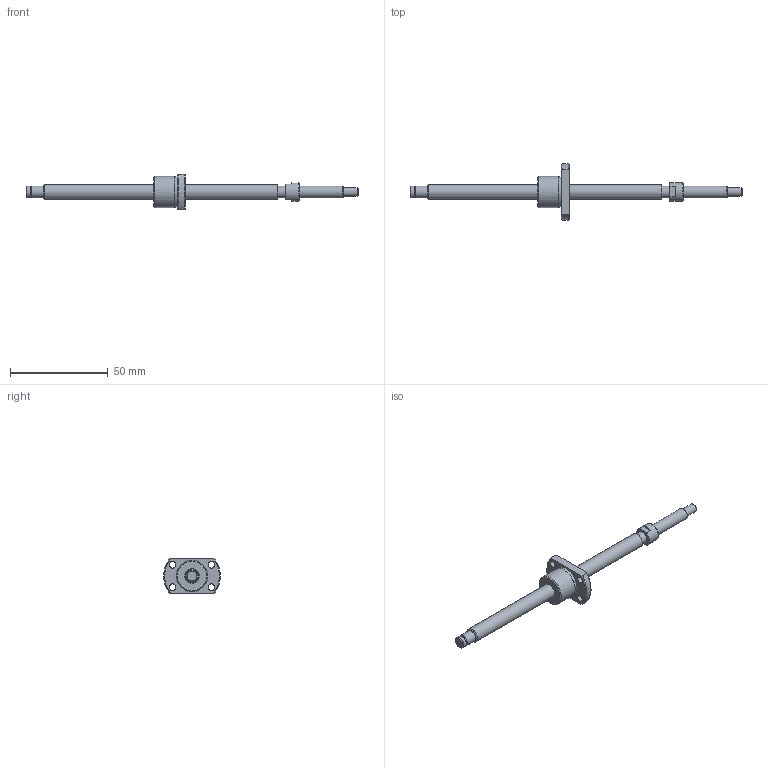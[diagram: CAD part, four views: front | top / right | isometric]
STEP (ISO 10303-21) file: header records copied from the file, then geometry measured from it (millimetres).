
FILE_DESCRIPTION(/* description */ ('STEP AP214'),/* implementation_level */ '2;1');
FILE_NAME(/* name */ 'SG0802.5-120R170C5B0X(56.5)',/* time_stamp */ '2026-07-21T16:47:31+02:00',/* author */ ('License CC BY-ND 4.0'),/* organization */ ('CADENAS'),/* preprocessor_version */ 'ST-DEVELOPER v20',/* originating_system */ 'PARTsolutions',/* authorisation */ ' ');
FILE_SCHEMA (('AUTOMOTIVE_DESIGN {1 0 10303 214 3 1 1}'));
Length unit declared in the file: millimetre
Products named in the file (3): SG0802.5-120R170C5B0X(56.5); SG0802.5-120R170C5B_shaft; SG0802.5 C5_nut
Assembly tree (2 placements, depth 2):
  SG0802.5-120R170C5B0X(56.5)
    SG0802.5-120R170C5B_shaft
    SG0802.5 C5_nut
Bounding box: 170 x 29 x 18 mm (x, y, z)
Volume: 10306.2 mm3; surface area: 6248 mm2
Topology: 2 solids, 2 shells, 51 faces, 104 edges, 67 vertices
Faces by surface type: plane 21, cylinder 19, cone 10, torus 1
Full cylindrical faces by diameter (mm): 3.4 x4, 4.5 x1, 5.7 x1, 6 x4, 7.5 x2, 9.5 x1, 15.7 x1, 16 x1
Entity records: 1338 total; most frequent: DIRECTION 233, CARTESIAN_POINT 225, ORIENTED_EDGE 162, AXIS2_PLACEMENT_3D 106, EDGE_LOOP 93, FACE_BOUND 93, EDGE_CURVE 81, VERTEX_POINT 66
